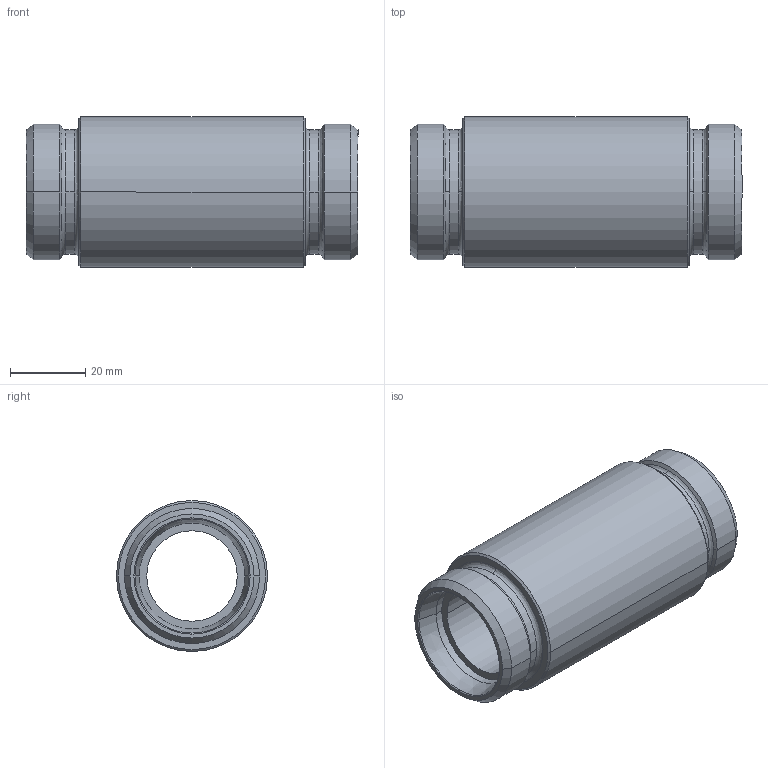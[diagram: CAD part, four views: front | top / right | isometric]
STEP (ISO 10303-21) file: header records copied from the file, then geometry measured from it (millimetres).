
FILE_DESCRIPTION((''),'2;1');
FILE_NAME('105611.stp','2007-10-31T14:16:01',(''),(''),'AutoCAD STEP 2000i','AutoCAD 2000i',', , ');
FILE_SCHEMA(('CONFIG_CONTROL_DESIGN'));
Length unit declared in the file: millimetre
Products named in the file (2): 105611.0; BARRA TONDA#0
Assembly tree (1 placements, depth 2):
  105611.0
    BARRA TONDA#0
Bounding box: 88 x 40 x 40 mm (x, y, z)
Volume: 59012.6 mm3; surface area: 18940.2 mm2
Topology: 1 solids, 1 shells, 50 faces, 120 edges, 76 vertices
Faces by surface type: cone 16, cylinder 16, bspline 8, plane 6, torus 4
Entity records: 1929 total; most frequent: CARTESIAN_POINT 600, DIRECTION 296, ORIENTED_EDGE 240, AXIS2_PLACEMENT_3D 132, EDGE_CURVE 120, CIRCLE 88, VERTEX_POINT 76, EDGE_LOOP 56
